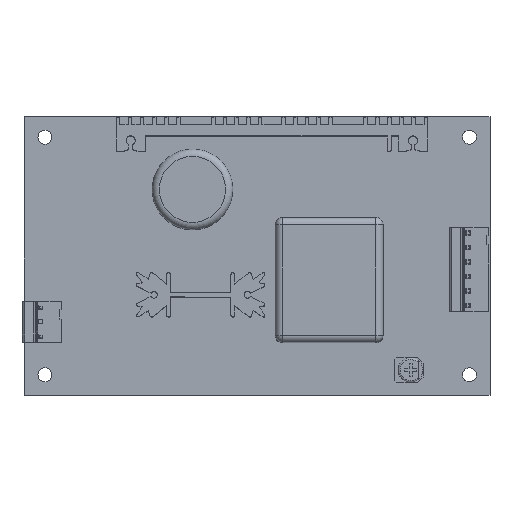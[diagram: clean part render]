
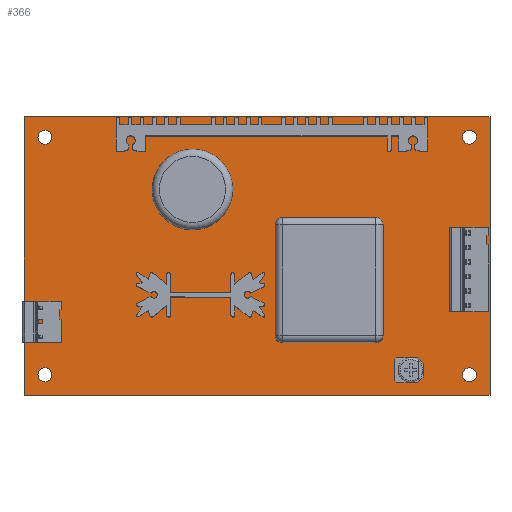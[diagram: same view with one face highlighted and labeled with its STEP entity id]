
A CAD part, top view. The second image highlights one B-rep face of the part: STEP entity #366.
In plain terms, the highlighted planar face has unit normal (0, 0, 1).
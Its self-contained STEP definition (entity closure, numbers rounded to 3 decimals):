
#123=CARTESIAN_POINT('',(99.231,0.372,1.6));
#124=VERTEX_POINT('',#123);
#125=CARTESIAN_POINT('',(97.331,0.372,1.6));
#126=DIRECTION('',(0.0,0.0,-1.0));
#127=DIRECTION('',(-1.0,0.0,0.0));
#128=AXIS2_PLACEMENT_3D('',#125,#126,#127);
#129=CIRCLE('',#128,1.9);
#130=EDGE_CURVE('',#124,#124,#129,.T.);
#151=CARTESIAN_POINT('',(-16.569,0.372,1.6));
#152=VERTEX_POINT('',#151);
#153=CARTESIAN_POINT('',(-18.469,0.372,1.6));
#154=DIRECTION('',(0.0,0.0,-1.0));
#155=DIRECTION('',(-1.0,0.0,0.0));
#156=AXIS2_PLACEMENT_3D('',#153,#154,#155);
#157=CIRCLE('',#156,1.9);
#158=EDGE_CURVE('',#152,#152,#157,.T.);
#179=CARTESIAN_POINT('',(99.231,65.172,1.6));
#180=VERTEX_POINT('',#179);
#181=CARTESIAN_POINT('',(97.331,65.172,1.6));
#182=DIRECTION('',(0.0,0.0,-1.0));
#183=DIRECTION('',(-1.0,0.0,0.0));
#184=AXIS2_PLACEMENT_3D('',#181,#182,#183);
#185=CIRCLE('',#184,1.9);
#186=EDGE_CURVE('',#180,#180,#185,.T.);
#207=CARTESIAN_POINT('',(-16.569,65.172,1.6));
#208=VERTEX_POINT('',#207);
#209=CARTESIAN_POINT('',(-18.469,65.172,1.6));
#210=DIRECTION('',(0.0,0.0,-1.0));
#211=DIRECTION('',(-1.0,0.0,0.0));
#212=AXIS2_PLACEMENT_3D('',#209,#210,#211);
#213=CIRCLE('',#212,1.9);
#214=EDGE_CURVE('',#208,#208,#213,.T.);
#224=CARTESIAN_POINT('',(102.931,70.772,1.6));
#225=VERTEX_POINT('',#224);
#226=CARTESIAN_POINT('',(102.931,-5.228,1.6));
#227=VERTEX_POINT('',#226);
#228=CARTESIAN_POINT('',(102.931,70.772,1.6));
#229=DIRECTION('',(0.0,-1.0,0.0));
#230=VECTOR('',#229,76.0);
#231=LINE('',#228,#230);
#232=EDGE_CURVE('',#225,#227,#231,.T.);
#264=CARTESIAN_POINT('',(-24.069,-5.228,1.6));
#265=VERTEX_POINT('',#264);
#266=CARTESIAN_POINT('',(102.931,-5.228,1.6));
#267=DIRECTION('',(-1.0,0.0,0.0));
#268=VECTOR('',#267,127.);
#269=LINE('',#266,#268);
#270=EDGE_CURVE('',#227,#265,#269,.T.);
#295=CARTESIAN_POINT('',(-24.069,70.772,1.6));
#296=VERTEX_POINT('',#295);
#297=CARTESIAN_POINT('',(-24.069,-5.228,1.6));
#298=DIRECTION('',(0.0,1.0,0.0));
#299=VECTOR('',#298,76.0);
#300=LINE('',#297,#299);
#301=EDGE_CURVE('',#265,#296,#300,.T.);
#326=CARTESIAN_POINT('',(-24.069,70.772,1.6));
#327=DIRECTION('',(1.0,0.0,0.0));
#328=VECTOR('',#327,127.);
#329=LINE('',#326,#328);
#330=EDGE_CURVE('',#296,#225,#329,.T.);
#343=CARTESIAN_POINT('',(39.431,32.772,1.6));
#344=DIRECTION('',(0.0,0.0,1.0));
#345=DIRECTION('',(1.0,0.0,0.0));
#346=AXIS2_PLACEMENT_3D('',#343,#344,#345);
#347=PLANE('',#346);
#348=ORIENTED_EDGE('',*,*,#232,.F.);
#349=ORIENTED_EDGE('',*,*,#330,.F.);
#350=ORIENTED_EDGE('',*,*,#301,.F.);
#351=ORIENTED_EDGE('',*,*,#270,.F.);
#352=EDGE_LOOP('',(#348,#349,#350,#351));
#353=FACE_OUTER_BOUND('',#352,.T.);
#354=ORIENTED_EDGE('',*,*,#130,.T.);
#355=EDGE_LOOP('',(#354));
#356=FACE_BOUND('',#355,.T.);
#357=ORIENTED_EDGE('',*,*,#158,.T.);
#358=EDGE_LOOP('',(#357));
#359=FACE_BOUND('',#358,.T.);
#360=ORIENTED_EDGE('',*,*,#186,.T.);
#361=EDGE_LOOP('',(#360));
#362=FACE_BOUND('',#361,.T.);
#363=ORIENTED_EDGE('',*,*,#214,.T.);
#364=EDGE_LOOP('',(#363));
#365=FACE_BOUND('',#364,.T.);
#366=ADVANCED_FACE('',(#353,#356,#359,#362,#365),#347,.T.);
